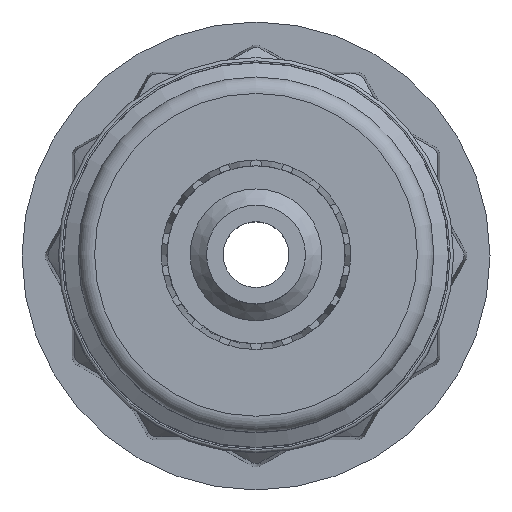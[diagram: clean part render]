
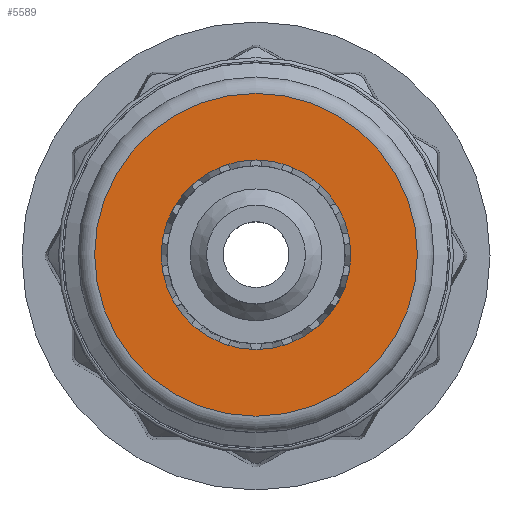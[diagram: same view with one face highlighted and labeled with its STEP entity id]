
A CAD part, top view. The second image highlights one B-rep face of the part: STEP entity #5589.
In plain terms, the highlighted planar face has unit normal (0, 0, 1).
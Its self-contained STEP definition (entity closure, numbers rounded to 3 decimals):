
#21 = EDGE_LOOP ( 'NONE', ( #4502 ) ) ;
#92 = CARTESIAN_POINT ( 'NONE',  ( 2.879, 0., 24. ) ) ;
#262 = CIRCLE ( 'NONE', #2948, 2.879 ) ;
#397 = VERTEX_POINT ( 'NONE', #92 ) ;
#664 = CARTESIAN_POINT ( 'NONE',  ( -4.9, 0., 24. ) ) ;
#797 = CIRCLE ( 'NONE', #5263, 4.9 ) ;
#876 = DIRECTION ( 'NONE',  ( 0., 0., 1. ) ) ;
#1430 = DIRECTION ( 'NONE',  ( 0., 0., 1. ) ) ;
#1467 = DIRECTION ( 'NONE',  ( -1., 0., 0. ) ) ;
#1587 = EDGE_CURVE ( 'NONE', #397, #397, #262, .T. ) ;
#1621 = EDGE_LOOP ( 'NONE', ( #1667 ) ) ;
#1667 = ORIENTED_EDGE ( 'NONE', *, *, #5538, .T. ) ;
#1807 = DIRECTION ( 'NONE',  ( 1., 0., 0. ) ) ;
#1962 = CARTESIAN_POINT ( 'NONE',  ( 0., 5.4, 24. ) ) ;
#1965 = FACE_OUTER_BOUND ( 'NONE', #1621, .T. ) ;
#2460 = DIRECTION ( 'NONE',  ( 0., 0., -1. ) ) ;
#2565 = VERTEX_POINT ( 'NONE', #664 ) ;
#2948 = AXIS2_PLACEMENT_3D ( 'NONE', #5214, #876, #1807 ) ;
#3230 = AXIS2_PLACEMENT_3D ( 'NONE', #1962, #2460, #1467 ) ;
#3866 = DIRECTION ( 'NONE',  ( -1., 0., 0. ) ) ;
#3924 = PLANE ( 'NONE',  #3230 ) ;
#4111 = FACE_BOUND ( 'NONE', #21, .T. ) ;
#4502 = ORIENTED_EDGE ( 'NONE', *, *, #1587, .F. ) ;
#5214 = CARTESIAN_POINT ( 'NONE',  ( 0., 0., 24. ) ) ;
#5263 = AXIS2_PLACEMENT_3D ( 'NONE', #5846, #1430, #3866 ) ;
#5538 = EDGE_CURVE ( 'NONE', #2565, #2565, #797, .T. ) ;
#5589 = ADVANCED_FACE ( 'NONE', ( #1965, #4111 ), #3924, .F. ) ;
#5846 = CARTESIAN_POINT ( 'NONE',  ( 0., 0., 24. ) ) ;
